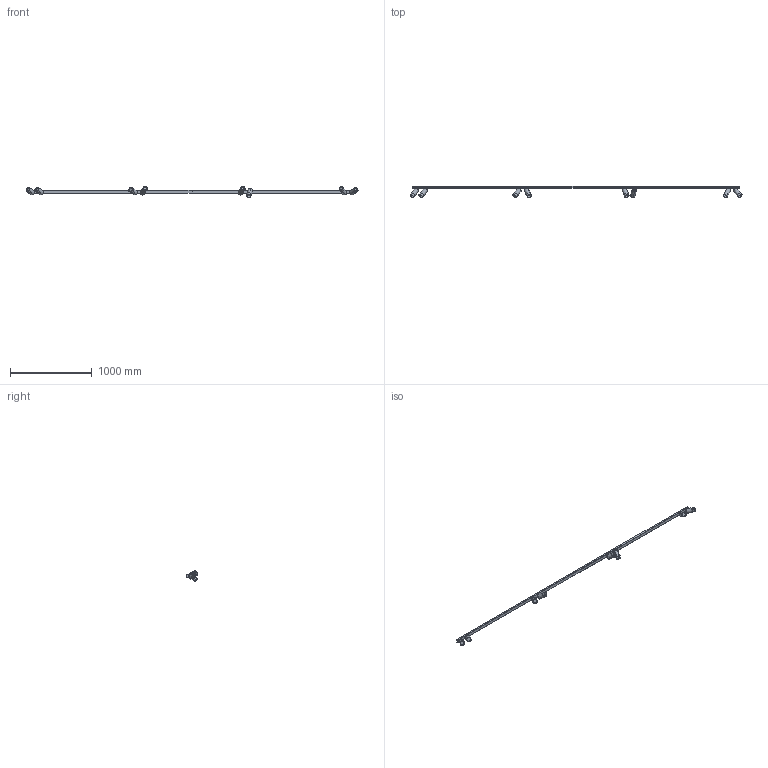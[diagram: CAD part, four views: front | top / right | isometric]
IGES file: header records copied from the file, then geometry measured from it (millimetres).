
Start section: SolidWorks IGES file using analytic representation for surfaces
Global section: file name: Z:\Modele 3D_WWW\_KOLEKCJE_WWW\MONO\MONO-CORNER\MONO-VIII-2X200-BRASS-7756\MONO-VIII-2X200-BRASS-7756.IGS; native system: SolidWorks 2021; preprocessor: SolidWorks 2021; author: gabriela.tworek; date: 210820.112722; units: millimetre
Bounding box: 4071.75 x 135.98 x 137.6 mm (x, y, z)
Surface area: 1027217.1 mm2 (no closed solid volume)
Topology: 0 solids, 0 shells, 1524 faces, 23416 edges, 23404 vertices
Faces by surface type: revolution 972, bspline 552
